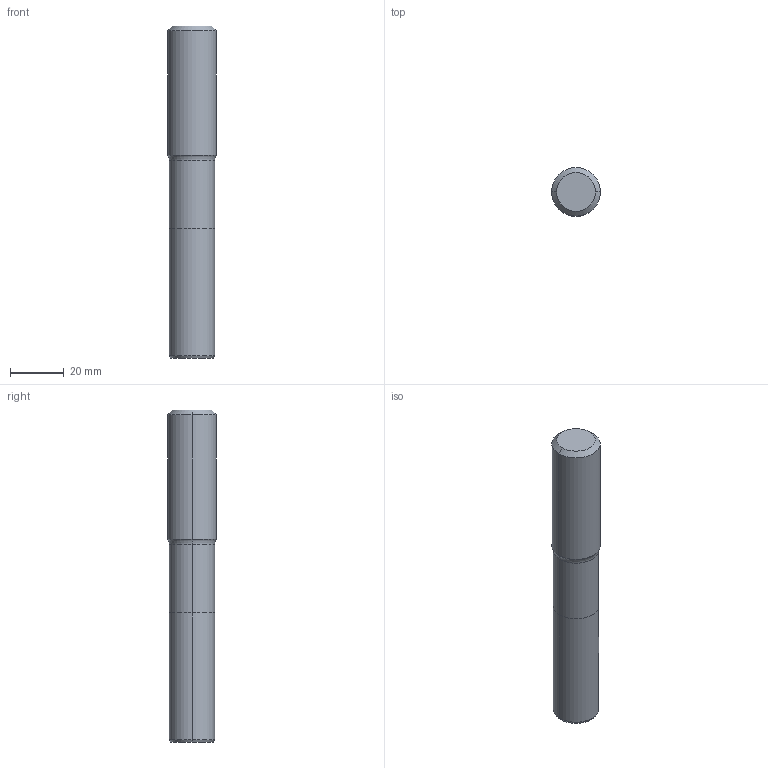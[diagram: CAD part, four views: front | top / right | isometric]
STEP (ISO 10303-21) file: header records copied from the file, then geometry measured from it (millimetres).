
FILE_DESCRIPTION (( 'STEP AP214' ), '1' );
FILE_NAME ('817.168.00_3D-model.step', '2022-02-24T00:21:57', ( '' ), ( '' ), 'SwSTEP 2.0', 'SolidWorks 2020', '' );
FILE_SCHEMA (( 'AUTOMOTIVE_DESIGN' ));
Length unit declared in the file: millimetre
Products named in the file (3): NOCUT-3D^Baugr10; 817.168.00_3D-model; CUT-3D^Baugr10
Assembly tree (2 placements, depth 2):
  817.168.00_3D-model
    CUT-3D^Baugr10
    NOCUT-3D^Baugr10
Bounding box: 18 x 18 x 123 mm (x, y, z)
Volume: 28762.2 mm3; surface area: 7517.2 mm2
Topology: 2 solids, 2 shells, 18 faces, 32 edges, 18 vertices
Faces by surface type: cylinder 6, cone 6, plane 4, torus 2
Entity records: 558 total; most frequent: DIRECTION 104, CARTESIAN_POINT 76, ORIENTED_EDGE 64, AXIS2_PLACEMENT_3D 46, EDGE_CURVE 32, CIRCLE 20, VERTEX_POINT 18, ADVANCED_FACE 18
